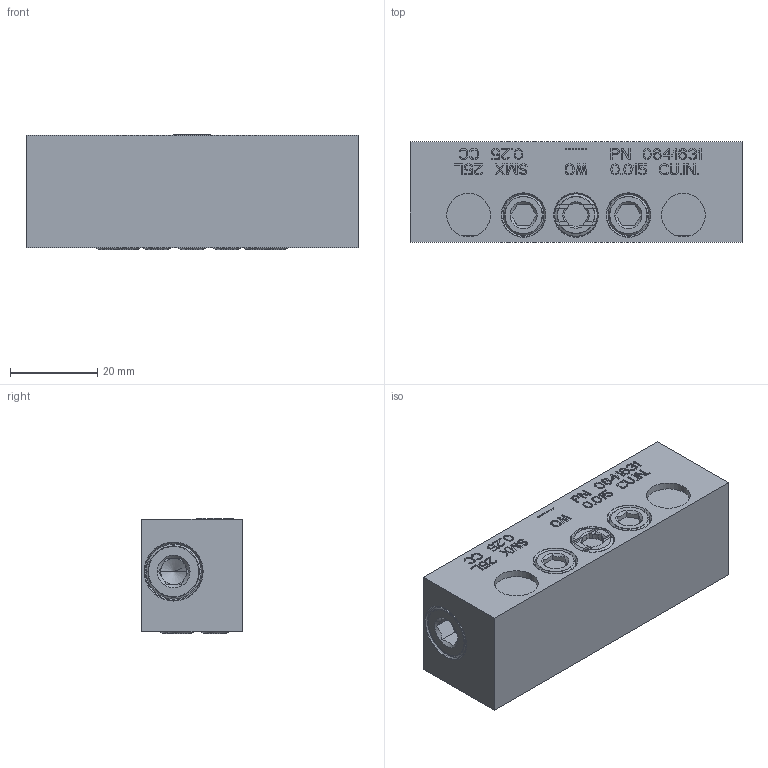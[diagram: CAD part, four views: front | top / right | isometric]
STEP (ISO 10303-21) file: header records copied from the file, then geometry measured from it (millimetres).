
FILE_DESCRIPTION((''),'2;1');
FILE_NAME('0641631_SMX_25L','2023-07-21T11:04:59',('pietro.masciave'),(''),'CREO PARAMETRIC BY PTC INC, 2022281','CREO PARAMETRIC BY PTC INC, 2022281','');
FILE_SCHEMA(('CONFIG_CONTROL_DESIGN'));
Length unit declared in the file: millimetre
Products named in the file (1): 0641631_SMX_25L
Bounding box: 76 x 23 x 26.33 mm (x, y, z)
Volume: 44006.1 mm3; surface area: 12661.6 mm2
Topology: 1 solids, 14 shells, 1287 faces, 3557 edges, 2363 vertices
Faces by surface type: plane 1111, cylinder 110, cone 44, torus 22
Entity records: 41643 total; most frequent: CARTESIAN_POINT 8533, ORIENTED_EDGE 7066, DIRECTION 6410, EDGE_CURVE 3553, VECTOR 3118, LINE 3118, VERTEX_POINT 2363, AXIS2_PLACEMENT_3D 1646
